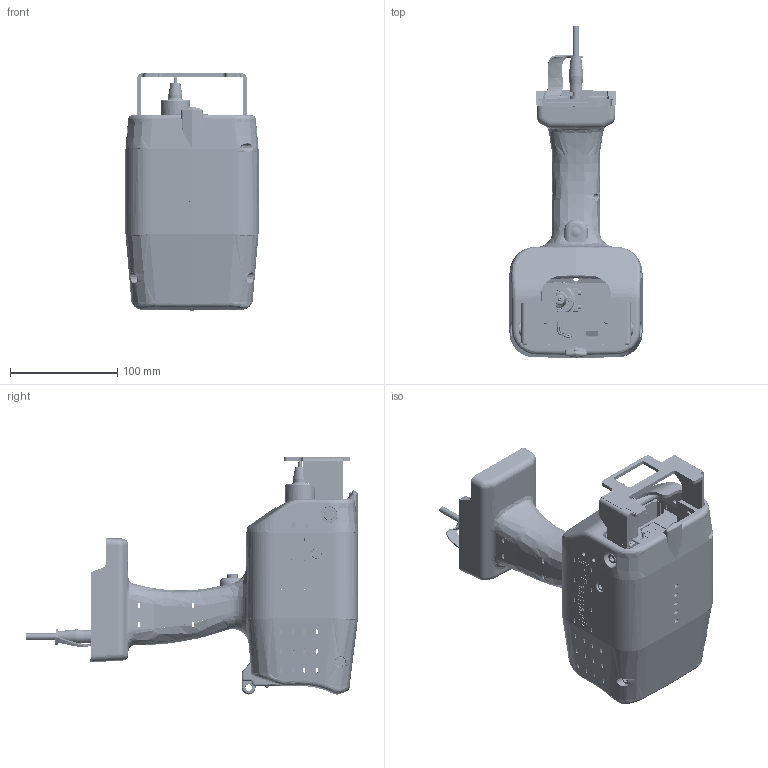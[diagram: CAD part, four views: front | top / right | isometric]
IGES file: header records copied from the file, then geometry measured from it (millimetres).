
Start section: SolidWorks IGES file using analytic representation for surfaces
Global section: file name: C:\東京彫刻 Solidworks Data\PM関係\PM3315S\外部資料用\外観図(HP用)\SW_DATA\Patmark_180620 HP用 3D AC adapter type.IGS; native system: SolidWorks 2016; preprocessor: SolidWorks 2016; author: hp-cp3; date: 181205.125735; units: millimetre
Bounding box: 125.6 x 309.5 x 221 mm (x, y, z)
Surface area: 518195.8 mm2 (no closed solid volume)
Topology: 0 solids, 0 shells, 5986 faces, 72146 edges, 72048 vertices
Faces by surface type: bspline 3623, revolution 2363
